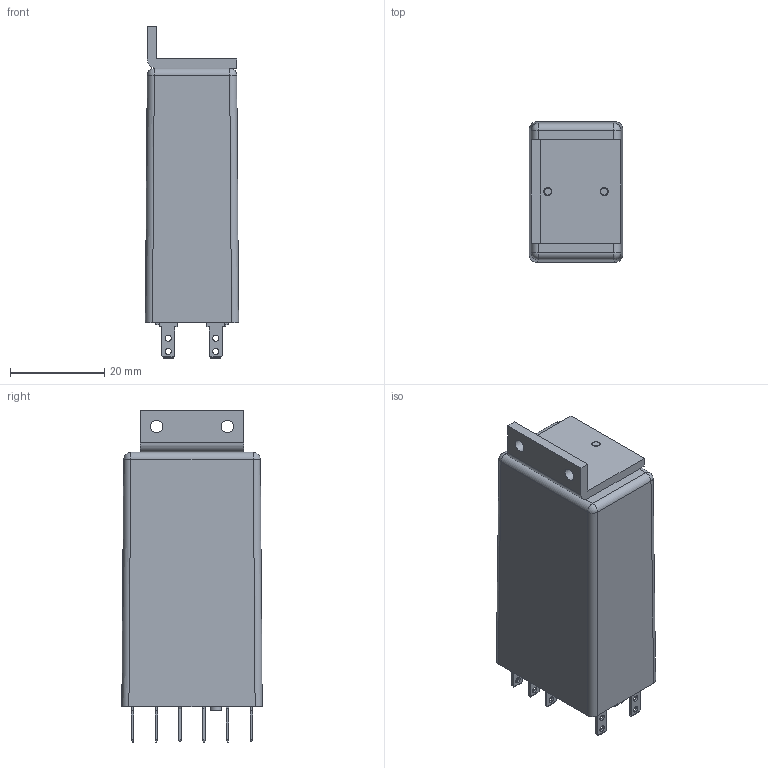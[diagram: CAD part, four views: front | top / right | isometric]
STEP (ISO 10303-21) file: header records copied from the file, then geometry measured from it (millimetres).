
FILE_DESCRIPTION((''),'2;1');
FILE_NAME('I:\TI\Bibliotheek\Inventor\Relais\KCS\KCS-U200.stp','2011-03-09T09:04:59',('oey'),(''),'Autodesk Inventor 2011','Autodesk Inventor 2011','');
FILE_SCHEMA(('AUTOMOTIVE_DESIGN { 1 0 10303 214 1 1 1 1 }'));
Length unit declared in the file: millimetre
Products named in the file (1): KCS-U200
Bounding box: 19.8 x 29.8 x 70.5 mm (x, y, z)
Volume: 17346.2 mm3; surface area: 23750.3 mm2
Topology: 1 solids, 11 shells, 1340 faces, 3836 edges, 2475 vertices
Faces by surface type: plane 818, cylinder 407, torus 46, cone 42, bspline 17, sphere 10
Full cylindrical faces by diameter (mm): 0.5 x15, 1.3 x20, 1.4 x2, 1.5 x2, 1.567 x1, 1.729 x4, 1.754 x5, 2 x18, 2.1 x4, 2.2 x4, 2.3 x2, 2.4 x1, 2.5 x2, 2.621 x2, 3 x2, 4.1 x1, 5 x2, 5.1 x2, 6 x2, 7 x4, 13 x2, 16 x2
Entity records: 48903 total; most frequent: CARTESIAN_POINT 12912, ORIENTED_EDGE 7246, DIRECTION 7202, EDGE_CURVE 3623, VECTOR 2418, LINE 2418, VERTEX_POINT 2415, AXIS2_PLACEMENT_3D 2392
